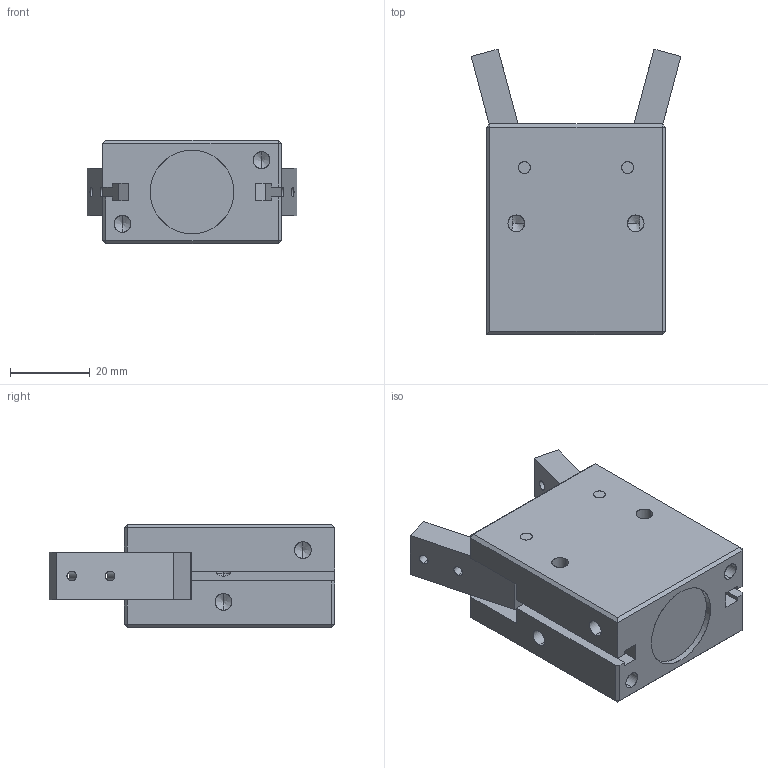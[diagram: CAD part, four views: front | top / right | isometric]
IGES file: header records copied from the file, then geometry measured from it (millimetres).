
Start section: SolidWorks IGES file using analytic representation for surfaces
Global section: file name: C:\Documents and Settings\SGA\Bureau\GDS.20\GDS.20-OPEN.IGS; native system: SolidWorks 2010; preprocessor: SolidWorks 2010; author: SGA; date: 111020.134902; units: millimetre
Bounding box: 52.72 x 71.81 x 26 mm (x, y, z)
Surface area: 20061.8 mm2 (no closed solid volume)
Topology: 0 solids, 0 shells, 580 faces, 6550 edges, 6534 vertices
Faces by surface type: bspline 516, revolution 64
